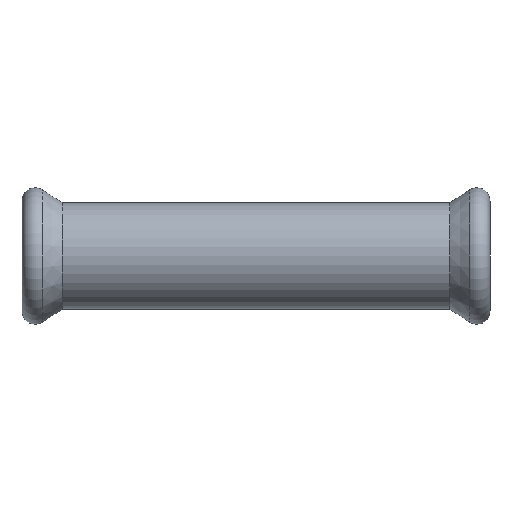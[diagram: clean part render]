
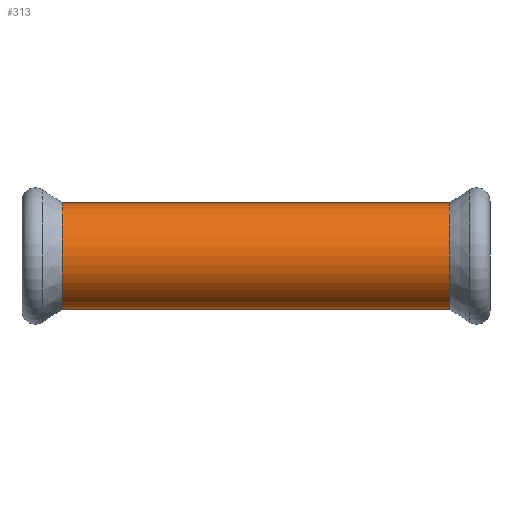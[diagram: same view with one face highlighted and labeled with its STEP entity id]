
A CAD part, front view. The second image highlights one B-rep face of the part: STEP entity #313.
In plain terms, the highlighted cylindrical face has radius 9.1 mm (diameter 18.2 mm), a partial arc.
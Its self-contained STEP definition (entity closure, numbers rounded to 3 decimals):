
#5 = ORIENTED_EDGE ( 'NONE', *, *, #564, .F. ) ;
#15 = VECTOR ( 'NONE', #625, 1000. ) ;
#26 = CARTESIAN_POINT ( 'NONE',  ( -33.113, 0., 9.1 ) ) ;
#77 = DIRECTION ( 'NONE',  ( 0., 0., 1. ) ) ;
#114 = EDGE_LOOP ( 'NONE', ( #5, #1098, #761, #1065 ) ) ;
#155 = CARTESIAN_POINT ( 'NONE',  ( 33.113, 0., 9.1 ) ) ;
#181 = DIRECTION ( 'NONE',  ( -1., 0., 0. ) ) ;
#204 = DIRECTION ( 'NONE',  ( 0., 0., 1. ) ) ;
#213 = DIRECTION ( 'NONE',  ( -1., 0., 0. ) ) ;
#225 = CIRCLE ( 'NONE', #1163, 9.1 ) ;
#313 = ADVANCED_FACE ( 'NONE', ( #558 ), #1032, .T. ) ;
#394 = VERTEX_POINT ( 'NONE', #26 ) ;
#417 = CARTESIAN_POINT ( 'NONE',  ( -84.842, 0., 0. ) ) ;
#436 = LINE ( 'NONE', #1195, #15 ) ;
#486 = AXIS2_PLACEMENT_3D ( 'NONE', #670, #758, #204 ) ;
#504 = DIRECTION ( 'NONE',  ( 0., 0., 1. ) ) ;
#558 = FACE_OUTER_BOUND ( 'NONE', #114, .T. ) ;
#564 = EDGE_CURVE ( 'NONE', #1186, #590, #742, .T. ) ;
#578 = EDGE_CURVE ( 'NONE', #590, #394, #225, .T. ) ;
#590 = VERTEX_POINT ( 'NONE', #946 ) ;
#615 = CARTESIAN_POINT ( 'NONE',  ( 33.113, 0., -9.1 ) ) ;
#625 = DIRECTION ( 'NONE',  ( -1., 0., 0. ) ) ;
#643 = CARTESIAN_POINT ( 'NONE',  ( -84.842, 0., -9.1 ) ) ;
#670 = CARTESIAN_POINT ( 'NONE',  ( 33.113, 0., 0. ) ) ;
#742 = LINE ( 'NONE', #643, #1049 ) ;
#753 = EDGE_CURVE ( 'NONE', #1186, #1241, #1025, .T. ) ;
#758 = DIRECTION ( 'NONE',  ( -1., 0., 0. ) ) ;
#761 = ORIENTED_EDGE ( 'NONE', *, *, #857, .T. ) ;
#857 = EDGE_CURVE ( 'NONE', #1241, #394, #436, .T. ) ;
#938 = CARTESIAN_POINT ( 'NONE',  ( -33.113, 0., 0. ) ) ;
#946 = CARTESIAN_POINT ( 'NONE',  ( -33.113, 0., -9.1 ) ) ;
#1025 = CIRCLE ( 'NONE', #486, 9.1 ) ;
#1032 = CYLINDRICAL_SURFACE ( 'NONE', #1059, 9.1 ) ;
#1035 = DIRECTION ( 'NONE',  ( -1., 0., 0. ) ) ;
#1049 = VECTOR ( 'NONE', #181, 1000. ) ;
#1059 = AXIS2_PLACEMENT_3D ( 'NONE', #417, #213, #504 ) ;
#1065 = ORIENTED_EDGE ( 'NONE', *, *, #578, .F. ) ;
#1098 = ORIENTED_EDGE ( 'NONE', *, *, #753, .T. ) ;
#1163 = AXIS2_PLACEMENT_3D ( 'NONE', #938, #1035, #77 ) ;
#1186 = VERTEX_POINT ( 'NONE', #615 ) ;
#1195 = CARTESIAN_POINT ( 'NONE',  ( -84.842, 0., 9.1 ) ) ;
#1241 = VERTEX_POINT ( 'NONE', #155 ) ;
